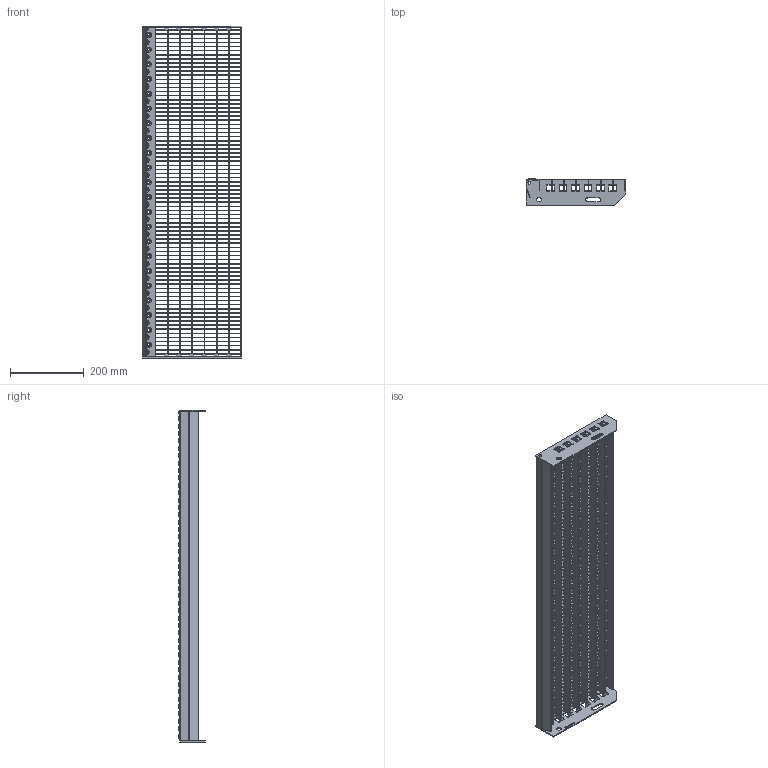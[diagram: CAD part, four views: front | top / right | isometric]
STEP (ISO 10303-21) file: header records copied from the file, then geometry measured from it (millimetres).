
FILE_DESCRIPTION(/* description */ ('','CAx-IF Rec.Pracs.---Representation and Presentation of Product Manufacturing Information (PMI)---3.8---2014-02-18'),/* implementation_level */ '2;1');
FILE_NAME(/* name */ 'C:\Users\phaverkotte\Desktop\Lager STEP\P-Stufen\P 230-33 11-2\P 230-33 11-2 900mm x 270mm.stp',/* time_stamp */ '2018-03-24T11:05:31+01:00',/* author */ ('phaverkotte'),/* organization */ (''),/* preprocessor_version */ 'ST-DEVELOPER v16.13',/* originating_system */ 'Autodesk Inventor 2018',/* authorisation */ '');
FILE_SCHEMA (('AP242_MANAGED_MODEL_BASED_3D_ENGINEERING_MIM_LF { 1 0 10303 442 1 1 4 }'));
Length unit declared in the file: millimetre
Products named in the file (8): Schodišťový stupeň přím
ý lisovaný; Seitenplatte ausgeklinkt links; Seitenplatte 240 ausgeklinkt extern rechts; Schod nášlap; P Rošt schodu; Querstab; P Nosný pás; Hinteres Flach
Assembly tree (92 placements, depth 3):
  Schodišťový stupeň přím
ý lisovaný
    Seitenplatte ausgeklinkt links
    Seitenplatte 240 ausgeklinkt extern rechts
    Schod nášlap
    P Rošt schodu
      Querstab  x80
      P Nosný pás  x7
      Hinteres Flach
Bounding box: 270.31 x 72.75 x 900 mm (x, y, z)
Volume: 971142.5 mm3; surface area: 1089193 mm2
Topology: 91 solids, 91 shells, 3414 faces, 9530 edges, 6315 vertices
Faces by surface type: plane 3078, cone 135, cylinder 132, torus 45, bspline 24
Full cylindrical faces by diameter (mm): 8 x2, 13 x2
Entity records: 35015 total; most frequent: CARTESIAN_POINT 9515, DIRECTION 5038, ORIENTED_EDGE 4962, EDGE_CURVE 2481, LINE 1936, VECTOR 1936, VERTEX_POINT 1706, AXIS2_PLACEMENT_3D 1551
